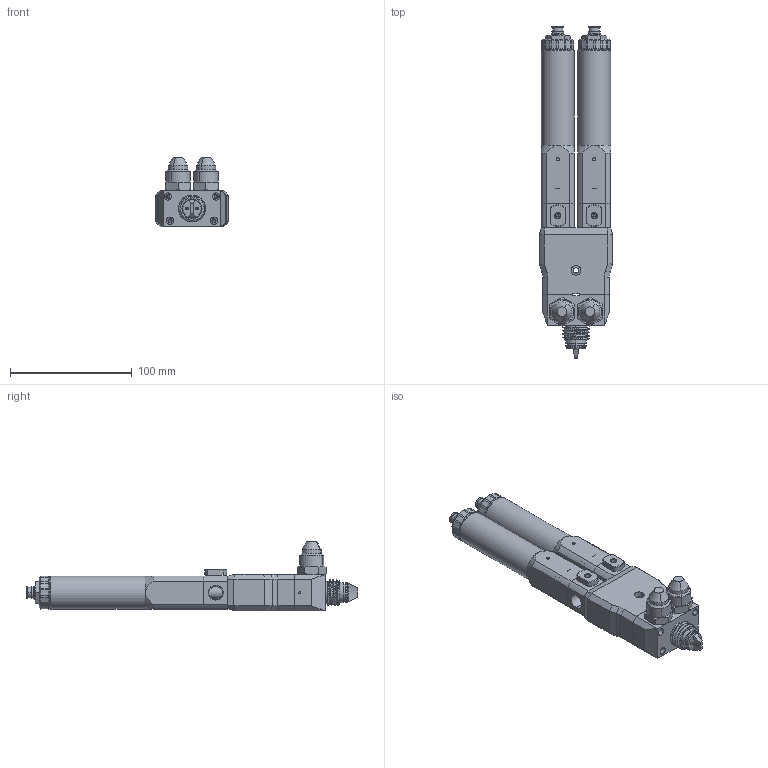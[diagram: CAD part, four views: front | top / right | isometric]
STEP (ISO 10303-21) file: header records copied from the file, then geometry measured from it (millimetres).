
FILE_DESCRIPTION (( 'STEP AP214' ), '1' );
FILE_NAME ('PDP-050-005CA.STEP', '2024-10-11T11:54:22', ( '' ), ( '' ), 'SwSTEP 2.0', 'SolidWorks 2024', '' );
FILE_SCHEMA (( 'AUTOMOTIVE_DESIGN' ));
Length unit declared in the file: millimetre
Products named in the file (1): PDP-050-005CA
Bounding box: 60 x 273 x 57.3 mm (x, y, z)
Volume: 341150.1 mm3; surface area: 88883.6 mm2
Topology: 12 solids, 12 shells, 1320 faces, 3236 edges, 2031 vertices
Faces by surface type: cylinder 514, plane 450, cone 331, bspline 17, torus 4, sphere 4
Full cylindrical faces by diameter (mm): 27 x2
Entity records: 49074 total; most frequent: CARTESIAN_POINT 18148, DIRECTION 6499, ORIENTED_EDGE 6388, EDGE_CURVE 3194, AXIS2_PLACEMENT_3D 2582, VERTEX_POINT 2031, EDGE_LOOP 1495, VECTOR 1335
